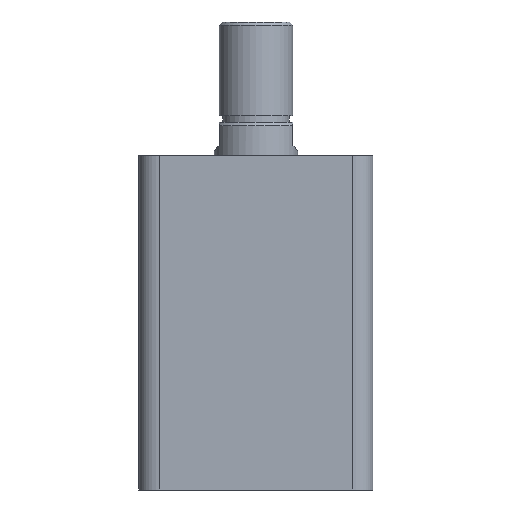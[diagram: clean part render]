
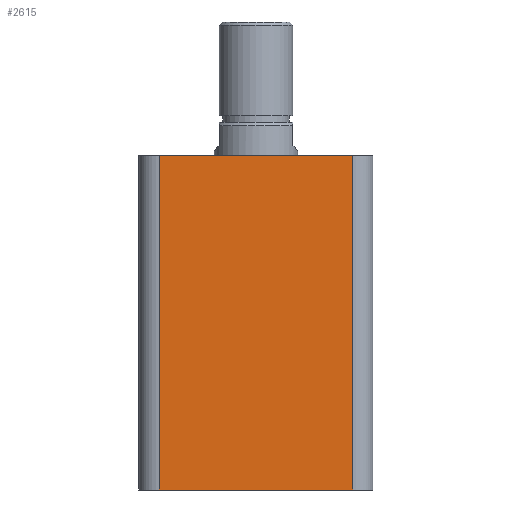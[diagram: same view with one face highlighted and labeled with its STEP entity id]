
A CAD part, front view. The second image highlights one B-rep face of the part: STEP entity #2615.
In plain terms, the highlighted planar face has unit normal (0, -1, 0).
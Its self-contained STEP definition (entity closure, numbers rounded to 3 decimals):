
#59 = VERTEX_POINT ( 'NONE', #1796 ) ;
#76 = VERTEX_POINT ( 'NONE', #1897 ) ;
#80 = VERTEX_POINT ( 'NONE', #1893 ) ;
#153 = VERTEX_POINT ( 'NONE', #1795 ) ;
#225 = EDGE_LOOP ( 'NONE', ( #386, #564, #587, #605 ) ) ;
#386 = ORIENTED_EDGE ( 'NONE', *, *, #1192, .F. ) ;
#564 = ORIENTED_EDGE ( 'NONE', *, *, #1193, .T. ) ;
#587 = ORIENTED_EDGE ( 'NONE', *, *, #1194, .T. ) ;
#605 = ORIENTED_EDGE ( 'NONE', *, *, #1195, .T. ) ;
#995 = DIRECTION ( 'NONE',  ( 0., 0., 1. ) ) ;
#996 = CARTESIAN_POINT ( 'NONE',  ( 29., -35., 100. ) ) ;
#999 = DIRECTION ( 'NONE',  ( 1., 0., 0. ) ) ;
#1000 = DIRECTION ( 'NONE',  ( 0., 0., -1. ) ) ;
#1001 = CARTESIAN_POINT ( 'NONE',  ( -29., -35., 100. ) ) ;
#1002 = DIRECTION ( 'NONE',  ( 1., 0., 0. ) ) ;
#1004 = CARTESIAN_POINT ( 'NONE',  ( -35., -35., 100. ) ) ;
#1022 = CARTESIAN_POINT ( 'NONE',  ( -35., -35., 0. ) ) ;
#1192 = EDGE_CURVE ( 'NONE', #59, #80, #1603, .T. ) ;
#1193 = EDGE_CURVE ( 'NONE', #59, #76, #1601, .T. ) ;
#1194 = EDGE_CURVE ( 'NONE', #76, #153, #1609, .T. ) ;
#1195 = EDGE_CURVE ( 'NONE', #153, #80, #1597, .T. ) ;
#1509 = FACE_OUTER_BOUND ( 'NONE', #225, .T. ) ;
#1594 = VECTOR ( 'NONE', #995, 1000. ) ;
#1596 = VECTOR ( 'NONE', #999, 1000. ) ;
#1597 = LINE ( 'NONE', #996, #1594 ) ;
#1598 = VECTOR ( 'NONE', #1000, 1000. ) ;
#1600 = VECTOR ( 'NONE', #1002, 1000. ) ;
#1601 = LINE ( 'NONE', #1001, #1598 ) ;
#1603 = LINE ( 'NONE', #1004, #1600 ) ;
#1609 = LINE ( 'NONE', #1022, #1596 ) ;
#1795 = CARTESIAN_POINT ( 'NONE',  ( 29., -35., 0. ) ) ;
#1796 = CARTESIAN_POINT ( 'NONE',  ( -29., -35., 100. ) ) ;
#1893 = CARTESIAN_POINT ( 'NONE',  ( 29., -35., 100. ) ) ;
#1897 = CARTESIAN_POINT ( 'NONE',  ( -29., -35., 0. ) ) ;
#2328 = DIRECTION ( 'NONE',  ( 0., 0., 1. ) ) ;
#2329 = DIRECTION ( 'NONE',  ( 0., 1., 0. ) ) ;
#2332 = CARTESIAN_POINT ( 'NONE',  ( -35., -35., 100. ) ) ;
#2336 = PLANE ( 'NONE',  #2640 ) ;
#2615 = ADVANCED_FACE ( 'NONE', ( #1509 ), #2336, .F. ) ;
#2640 = AXIS2_PLACEMENT_3D ( 'NONE', #2332, #2329, #2328 ) ;
